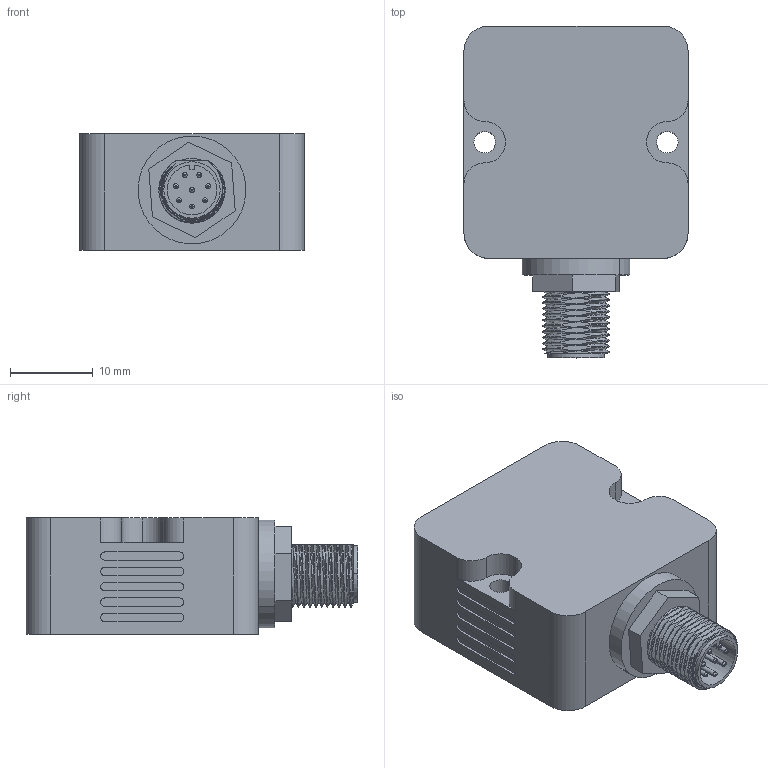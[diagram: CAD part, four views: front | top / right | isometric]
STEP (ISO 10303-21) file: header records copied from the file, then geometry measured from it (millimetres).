
FILE_DESCRIPTION (( 'STEP AP203' ), '1' );
FILE_NAME ('HI18-3D.STEP', '2026-03-23T06:46:12', ( '' ), ( '' ), 'SwSTEP 2.0', 'SolidWorks 2025', '' );
FILE_SCHEMA (( 'CONFIG_CONTROL_DESIGN' ));
Length unit declared in the file: millimetre
Products named in the file (6): M8接头; HI18-SHELL-4; M8接头螺母; HI18-3D; 胶圈; HI18-cover
Assembly tree (5 placements, depth 2):
  HI18-3D
    HI18-SHELL-4
    M8接头
    HI18-cover
    胶圈
    M8接头螺母
Bounding box: 27 x 40 x 14 mm (x, y, z)
Volume: 5232.9 mm3; surface area: 7801.5 mm2
Topology: 5 solids, 5 shells, 342 faces, 894 edges, 582 vertices
Faces by surface type: cylinder 184, plane 127, torus 16, cone 12, bspline 3
Entity records: 13574 total; most frequent: CARTESIAN_POINT 4735, ORIENTED_EDGE 1776, DIRECTION 1700, EDGE_CURVE 888, AXIS2_PLACEMENT_3D 633, VERTEX_POINT 582, LINE 434, VECTOR 434
